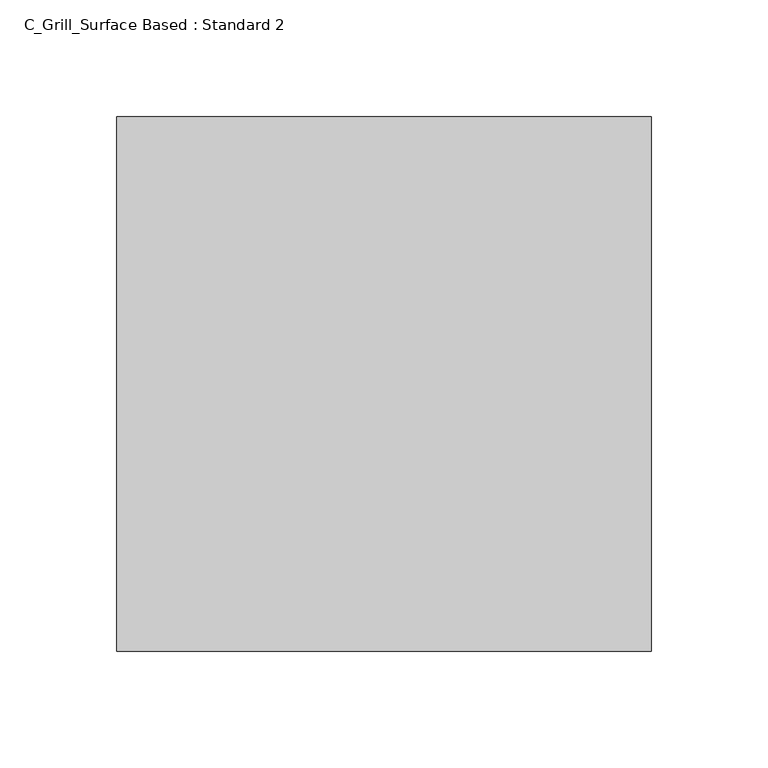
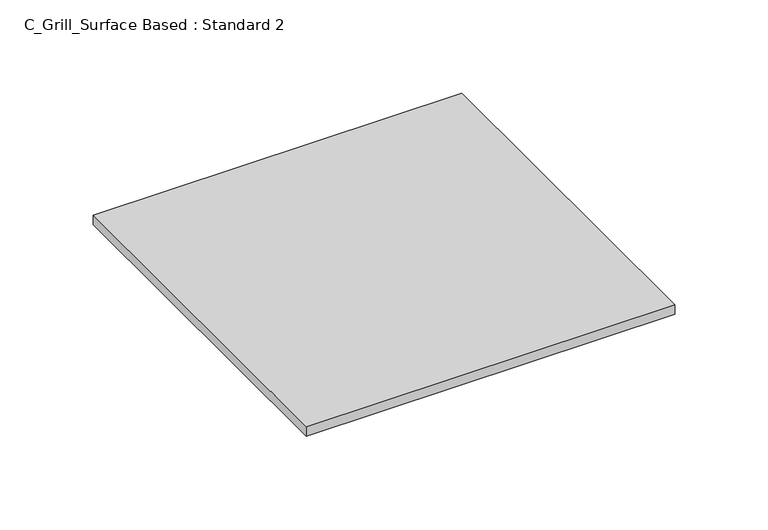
"""IFC4 building model written with IfcOpenShell, lengths in millimetres: air terminal geometry, C_Grill_Surface Based : Standard 2."""

from ifc_helpers import new_model, si_unit, origin, origin_with_axes, place, context, project, spatial, polyline, outline, extrude, source, transform, mapped, element, save


def c_grill_surface_based_standard_2_48c5f946(model_context):
    return source(origin(), model_context, "Body", "SweptSolid", [
        extrude(outline(polyline([(114.3, 114.3), (114.3, -114.3), (-114.3, -114.3), (-114.3, 114.3), (114.3, 114.3)])), origin_with_axes(), (0.0, 0.0, 1.0), 6.35),
    ])


if __name__ == "__main__":
    model = new_model("IFC4")
    model_context = context("Model", 3, world=origin())
    ifc_project = project(units=[si_unit("LENGTHUNIT", "METRE", prefix="MILLI")], contexts=[model_context])
    site = spatial("IfcSite", under=ifc_project)
    building = spatial("IfcBuilding", under=site)
    placement = place(None, origin())
    c_grill_surface_based_standard_2_shape = c_grill_surface_based_standard_2_48c5f946(model_context)
    element("IfcAirTerminal", 1, ObjectType="C_Grill_Surface Based : Standard 2", at=placement, inside=building, context=model_context, shape_type="MappedRepresentation", body=[
        mapped(c_grill_surface_based_standard_2_shape, transform((0.0, 0.0, 0.0), x_axis=(1.0, 0.0, 0.0), y_axis=(0.0, 1.0, 0.0), z_axis=(0.0, 0.0, 1.0))),
    ])
    save(model, "model.ifc")
